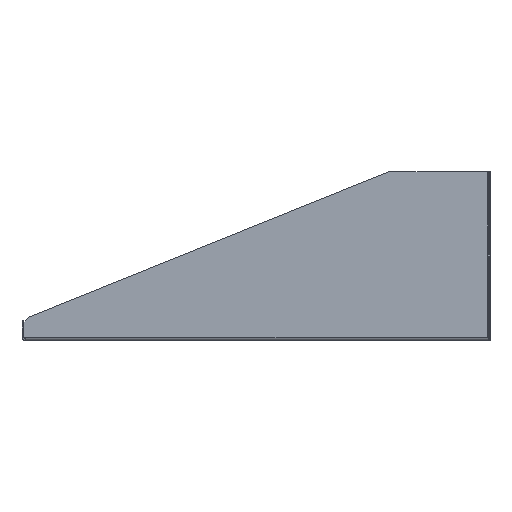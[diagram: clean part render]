
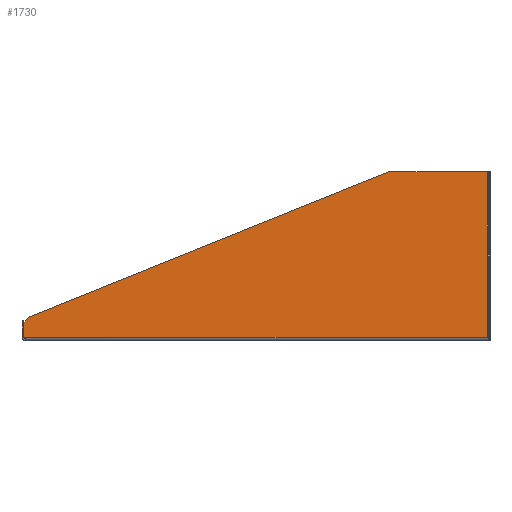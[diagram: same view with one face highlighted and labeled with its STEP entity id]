
A CAD part, left-side view. The second image highlights one B-rep face of the part: STEP entity #1730.
In plain terms, the highlighted planar face has unit normal (-1, 0, 0).
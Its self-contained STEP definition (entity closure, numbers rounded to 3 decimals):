
#1730 = ADVANCED_FACE( '', ( #3741 ), #3742, .F. );
#3741 = FACE_OUTER_BOUND( '', #5902, .T. );
#3742 = PLANE( '', #5903 );
#5902 = EDGE_LOOP( '', ( #11532, #11533, #11534, #11535, #11536, #11537, #11538, #11539 ) );
#5903 = AXIS2_PLACEMENT_3D( '', #11540, #11541, #11542 );
#11532 = ORIENTED_EDGE( '', *, *, #12193, .T. );
#11533 = ORIENTED_EDGE( '', *, *, #13967, .T. );
#11534 = ORIENTED_EDGE( '', *, *, #13055, .T. );
#11535 = ORIENTED_EDGE( '', *, *, #13683, .F. );
#11536 = ORIENTED_EDGE( '', *, *, #11791, .F. );
#11537 = ORIENTED_EDGE( '', *, *, #13051, .T. );
#11538 = ORIENTED_EDGE( '', *, *, #12955, .T. );
#11539 = ORIENTED_EDGE( '', *, *, #12373, .T. );
#11540 = CARTESIAN_POINT( '', ( -222.25, -183.426, 1.181 ) );
#11541 = DIRECTION( '', ( 1., 0., 0. ) );
#11542 = DIRECTION( '', ( 0., 0., -1. ) );
#11791 = EDGE_CURVE( '', #14155, #14150, #14157, .T. );
#12193 = EDGE_CURVE( '', #14855, #14853, #14856, .T. );
#12373 = EDGE_CURVE( '', #15161, #14855, #15162, .F. );
#12955 = EDGE_CURVE( '', #16114, #15161, #16115, .T. );
#13051 = EDGE_CURVE( '', #14155, #16114, #16252, .T. );
#13055 = EDGE_CURVE( '', #16254, #14141, #16257, .T. );
#13683 = EDGE_CURVE( '', #14150, #14141, #17109, .T. );
#13967 = EDGE_CURVE( '', #14853, #16254, #17397, .T. );
#14141 = VERTEX_POINT( '', #17615 );
#14150 = VERTEX_POINT( '', #17628 );
#14155 = VERTEX_POINT( '', #17634 );
#14157 = LINE( '', #17636, #17637 );
#14853 = VERTEX_POINT( '', #18590 );
#14855 = VERTEX_POINT( '', #18593 );
#14856 = LINE( '', #18594, #18595 );
#15161 = VERTEX_POINT( '', #19008 );
#15162 = LINE( '', #19009, #19010 );
#16114 = VERTEX_POINT( '', #20259 );
#16115 = LINE( '', #20260, #20261 );
#16252 = LINE( '', #20450, #20451 );
#16254 = VERTEX_POINT( '', #20453 );
#16257 = LINE( '', #20471, #20472 );
#17109 = LINE( '', #21712, #21713 );
#17397 = CIRCLE( '', #22130, 1.397 );
#17615 = CARTESIAN_POINT( '', ( -222.25, -182.69, 2.184 ) );
#17628 = CARTESIAN_POINT( '', ( -222.25, -182.69, 2.186 ) );
#17634 = CARTESIAN_POINT( '', ( -222.25, -182.69, 132.537 ) );
#17636 = CARTESIAN_POINT( '', ( -222.25, -182.69, 2.186 ) );
#17637 = VECTOR( '', #22275, 1000. );
#18590 = CARTESIAN_POINT( '', ( -222.25, 181.976, 2.552 ) );
#18593 = CARTESIAN_POINT( '', ( -222.25, 181.976, 14.15 ) );
#18594 = CARTESIAN_POINT( '', ( -222.25, 181.976, 132.537 ) );
#18595 = VECTOR( '', #22762, 1000. );
#19008 = CARTESIAN_POINT( '', ( -222.25, 178.099, 18.027 ) );
#19009 = CARTESIAN_POINT( '', ( -222.25, 178.099, 18.027 ) );
#19010 = VECTOR( '', #22970, 1000. );
#20259 = CARTESIAN_POINT( '', ( -222.25, -105.321, 132.537 ) );
#20260 = CARTESIAN_POINT( '', ( -222.25, -126.841, 141.232 ) );
#20261 = VECTOR( '', #23943, 1000. );
#20450 = CARTESIAN_POINT( '', ( -222.25, -183.426, 132.537 ) );
#20451 = VECTOR( '', #24048, 1000. );
#20453 = CARTESIAN_POINT( '', ( -222.25, 181.274, 2.184 ) );
#20471 = CARTESIAN_POINT( '', ( -222.25, 183.426, 2.184 ) );
#20472 = VECTOR( '', #24052, 1000. );
#21712 = CARTESIAN_POINT( '', ( -222.25, -182.69, 2.186 ) );
#21713 = VECTOR( '', #24868, 1000. );
#22130 = AXIS2_PLACEMENT_3D( '', #24968, #24969, #24970 );
#22275 = DIRECTION( '', ( 0., 0., -1. ) );
#22762 = DIRECTION( '', ( 0., 0., -1. ) );
#22970 = DIRECTION( '', ( 0., -0.707, 0.707 ) );
#23943 = DIRECTION( '', ( 0., 0.927, -0.375 ) );
#24048 = DIRECTION( '', ( 0., 1., 0. ) );
#24052 = DIRECTION( '', ( 0., -1., 0. ) );
#24868 = DIRECTION( '', ( 0., 0., -1. ) );
#24968 = CARTESIAN_POINT( '', ( -222.25, 182.245, 1.181 ) );
#24969 = DIRECTION( '', ( 1., 0., 0. ) );
#24970 = DIRECTION( '', ( 0., 1., 0. ) );
